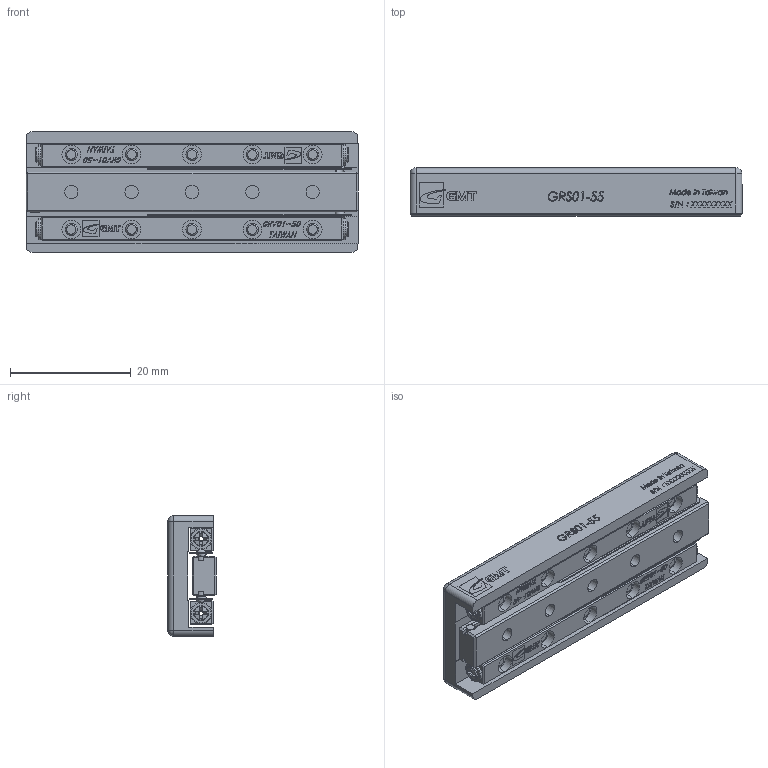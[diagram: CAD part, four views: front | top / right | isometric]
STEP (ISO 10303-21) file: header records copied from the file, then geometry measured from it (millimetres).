
FILE_DESCRIPTION (( 'STEP AP203' ), '1' );
FILE_NAME ('GRS20-55.STEP', '2012-10-22T01:11:41', ( '123' ), ( '' ), 'SwSTEP 2.0', 'SolidWorks 2012', '' );
FILE_SCHEMA (( 'CONFIG_CONTROL_DESIGN' ));
Length unit declared in the file: millimetre
Products named in the file (1): GRS20-55
Bounding box: 55 x 8 x 20 mm (x, y, z)
Surface area: 6906.8 mm2 (no closed solid volume)
Topology: 0 solids, 50 shells, 1005 faces, 5045 edges, 3910 vertices
Faces by surface type: plane 679, cylinder 149, cone 66, torus 56, bspline 43, sphere 12
Entity records: 55621 total; most frequent: CARTESIAN_POINT 17812, DIRECTION 7113, ORIENTED_EDGE 6936, EDGE_CURVE 5021, VERTEX_POINT 3910, LINE 3363, VECTOR 3363, AXIS2_PLACEMENT_3D 1875
